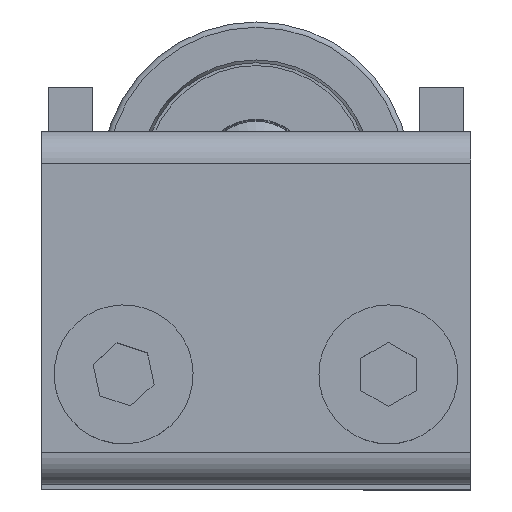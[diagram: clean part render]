
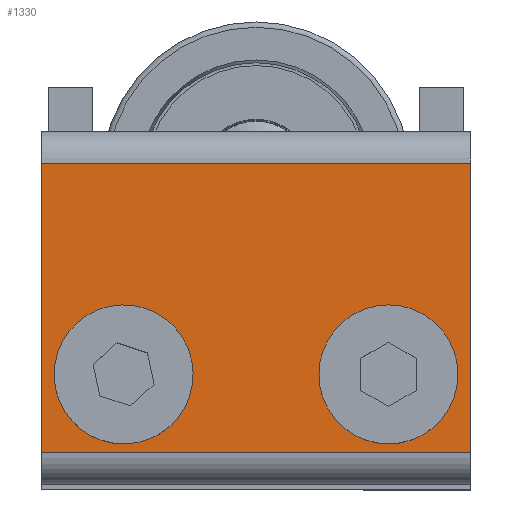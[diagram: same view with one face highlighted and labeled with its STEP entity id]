
A CAD part, top view. The second image highlights one B-rep face of the part: STEP entity #1330.
In plain terms, the highlighted planar face has unit normal (0, 0, 1) as drawn and (0, 0, -1) by its records, which use the part's own axes.
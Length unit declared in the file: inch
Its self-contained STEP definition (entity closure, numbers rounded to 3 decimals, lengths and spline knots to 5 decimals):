
#1047=DIRECTION('',(0.,-1.,0.));
#1048=VECTOR('',#1047,0.82);
#1049=CARTESIAN_POINT('',(0.6075,0.41,-0.18));
#1050=LINE('',#1049,#1048);
#1051=CARTESIAN_POINT('',(0.375,-0.188,-0.18));
#1052=DIRECTION('',(0.,0.,1.));
#1053=DIRECTION('',(1.,0.,0.));
#1054=AXIS2_PLACEMENT_3D('',#1051,#1052,#1053);
#1056=CARTESIAN_POINT('',(0.375,-0.188,-0.18));
#1057=DIRECTION('',(0.,0.,1.));
#1058=DIRECTION('',(-1.,0.,0.));
#1059=AXIS2_PLACEMENT_3D('',#1056,#1057,#1058);
#1061=CARTESIAN_POINT('',(-0.375,-0.188,-0.18));
#1062=DIRECTION('',(0.,0.,1.));
#1063=DIRECTION('',(1.,0.,0.));
#1064=AXIS2_PLACEMENT_3D('',#1061,#1062,#1063);
#1066=CARTESIAN_POINT('',(-0.375,-0.188,-0.18));
#1067=DIRECTION('',(0.,0.,1.));
#1068=DIRECTION('',(-1.,0.,0.));
#1069=AXIS2_PLACEMENT_3D('',#1066,#1067,#1068);
#1101=DIRECTION('',(0.,-1.,0.));
#1102=VECTOR('',#1101,0.82);
#1103=CARTESIAN_POINT('',(-0.6075,0.41,-0.18));
#1104=LINE('',#1103,#1102);
#1131=DIRECTION('',(-1.,0.,0.));
#1132=VECTOR('',#1131,1.215);
#1133=CARTESIAN_POINT('',(0.6075,0.41,-0.18));
#1134=LINE('',#1133,#1132);
#1211=DIRECTION('',(1.,0.,0.));
#1212=VECTOR('',#1211,1.215);
#1213=CARTESIAN_POINT('',(-0.6075,-0.41,-0.18));
#1214=LINE('',#1213,#1212);
#1219=CARTESIAN_POINT('',(0.25,-0.188,-0.18));
#1220=CARTESIAN_POINT('',(0.5,-0.188,-0.18));
#1221=VERTEX_POINT('',#1219);
#1222=VERTEX_POINT('',#1220);
#1228=CARTESIAN_POINT('',(-0.5,-0.188,-0.18));
#1230=VERTEX_POINT('',#1228);
#1249=CARTESIAN_POINT('',(-0.25,-0.188,-0.18));
#1250=VERTEX_POINT('',#1249);
#1252=CARTESIAN_POINT('',(-0.6075,0.41,-0.18));
#1254=VERTEX_POINT('',#1252);
#1255=CARTESIAN_POINT('',(0.6075,0.41,-0.18));
#1256=VERTEX_POINT('',#1255);
#1259=CARTESIAN_POINT('',(-0.6075,-0.41,-0.18));
#1261=VERTEX_POINT('',#1259);
#1269=CARTESIAN_POINT('',(0.6075,-0.41,-0.18));
#1270=VERTEX_POINT('',#1269);
#1305=CARTESIAN_POINT('',(0.6075,0.5,-0.18));
#1306=DIRECTION('',(0.,0.,1.));
#1307=DIRECTION('',(0.,-1.,0.));
#1308=AXIS2_PLACEMENT_3D('',#1305,#1306,#1307);
#1309=PLANE('',#1308);
#1311=ORIENTED_EDGE('',*,*,#1310,.F.);
#1313=ORIENTED_EDGE('',*,*,#1312,.T.);
#1315=ORIENTED_EDGE('',*,*,#1314,.T.);
#1317=ORIENTED_EDGE('',*,*,#1316,.T.);
#1318=EDGE_LOOP('',(#1311,#1313,#1315,#1317));
#1319=FACE_OUTER_BOUND('',#1318,.F.);
#1320=ORIENTED_EDGE('',*,*,#1286,.F.);
#1321=ORIENTED_EDGE('',*,*,#1296,.F.);
#1322=EDGE_LOOP('',(#1320,#1321));
#1323=FACE_BOUND('',#1322,.F.);
#1325=ORIENTED_EDGE('',*,*,#1324,.F.);
#1327=ORIENTED_EDGE('',*,*,#1326,.F.);
#1328=EDGE_LOOP('',(#1325,#1327));
#1329=FACE_BOUND('',#1328,.F.);
#1055=CIRCLE('',#1054,0.125);
#1060=CIRCLE('',#1059,0.125);
#1065=CIRCLE('',#1064,0.125);
#1070=CIRCLE('',#1069,0.125);
#1286=EDGE_CURVE('',#1222,#1221,#1055,.T.);
#1296=EDGE_CURVE('',#1221,#1222,#1060,.T.);
#1310=EDGE_CURVE('',#1256,#1270,#1050,.T.);
#1312=EDGE_CURVE('',#1256,#1254,#1134,.T.);
#1314=EDGE_CURVE('',#1254,#1261,#1104,.T.);
#1316=EDGE_CURVE('',#1261,#1270,#1214,.T.);
#1324=EDGE_CURVE('',#1250,#1230,#1065,.T.);
#1326=EDGE_CURVE('',#1230,#1250,#1070,.T.);
#1330=ADVANCED_FACE('',(#1319,#1323,#1329),#1309,.F.);
